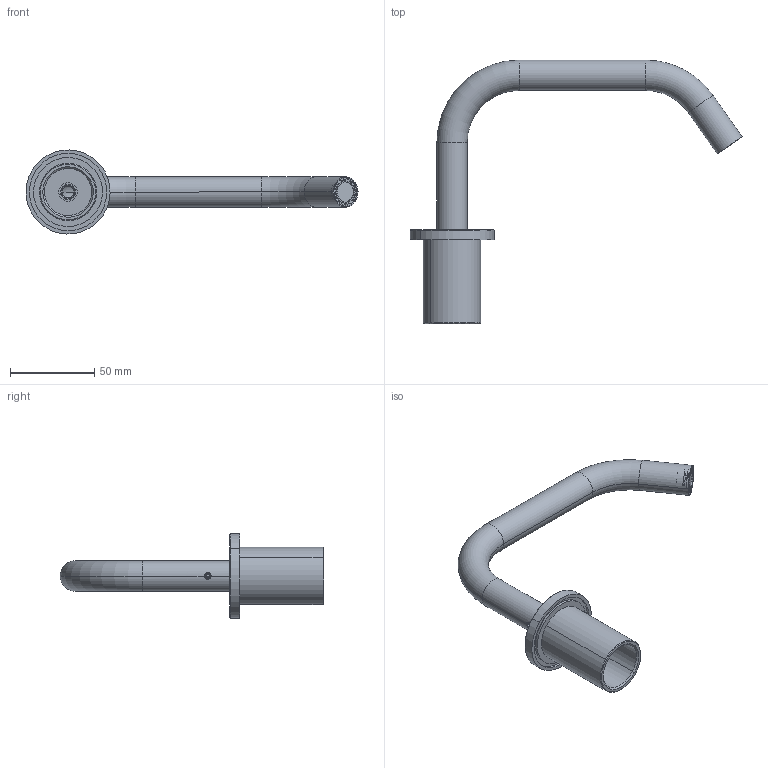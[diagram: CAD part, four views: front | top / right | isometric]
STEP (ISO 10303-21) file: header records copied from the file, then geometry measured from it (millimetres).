
FILE_DESCRIPTION (( 'STEP AP203' ), '1' );
FILE_NAME ('CTO1C.STEP', '2018-05-31T08:36:55', ( '' ), ( '' ), 'SwSTEP 2.0', 'SolidWorks 2014', '' );
FILE_SCHEMA (( 'CONFIG_CONTROL_DESIGN' ));
Length unit declared in the file: millimetre
Products named in the file (10): EU0648_1; EU0029_1; EU1473_1; GRANCO M4x3 ACCIAIO; EU1472_0; OR992262ACS; CTO1C; EU0649_0; OR212ACS; AERA161INC
Assembly tree (11 placements, depth 2):
  CTO1C
    EU0029_1
    OR212ACS
    EU1473_1
    EU1472_0
    EU0648_1
    EU0649_0  x2
    OR992262ACS  x2
    GRANCO M4x3 ACCIAIO
    AERA161INC
Bounding box: 197.34 x 156.77 x 49.98 mm (x, y, z)
Volume: 65083.3 mm3; surface area: 51079.1 mm2
Topology: 11 solids, 11 shells, 353 faces, 778 edges, 472 vertices
Faces by surface type: cylinder 118, plane 103, cone 88, torus 44
Entity records: 10062 total; most frequent: DIRECTION 1712, CARTESIAN_POINT 1665, ORIENTED_EDGE 1396, AXIS2_PLACEMENT_3D 701, EDGE_CURVE 698, VERTEX_POINT 424, CIRCLE 370, EDGE_LOOP 354
